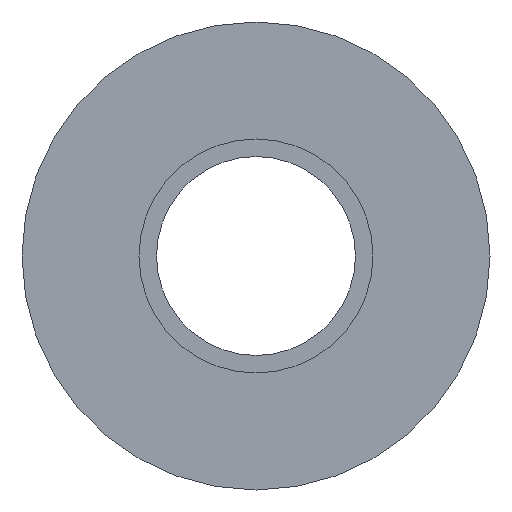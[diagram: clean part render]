
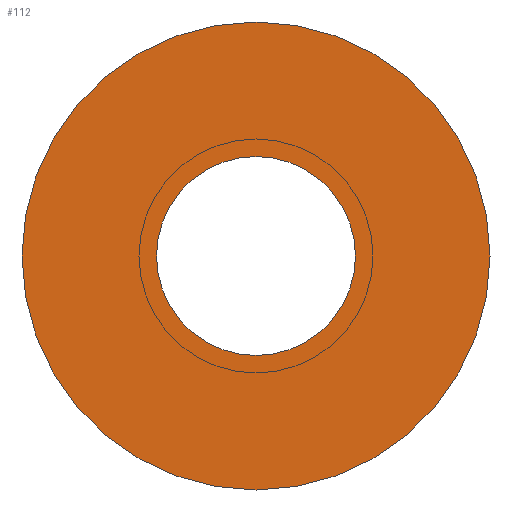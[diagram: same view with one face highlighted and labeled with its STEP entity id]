
A CAD part, front view. The second image highlights one B-rep face of the part: STEP entity #112.
In plain terms, the highlighted planar face has unit normal (0, -1, 0).
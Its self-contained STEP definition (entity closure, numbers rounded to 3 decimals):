
#1=CARTESIAN_POINT('',(0.,-21.5,0.));
#2=DIRECTION('',(0.,1.,0.));
#3=DIRECTION('',(1.,0.,0.));
#4=AXIS2_PLACEMENT_3D('',#1,#2,#3);
#6=CARTESIAN_POINT('',(0.,-21.5,0.));
#7=DIRECTION('',(0.,1.,0.));
#8=DIRECTION('',(-1.,0.,0.));
#9=AXIS2_PLACEMENT_3D('',#6,#7,#8);
#11=CARTESIAN_POINT('',(0.,-21.5,0.));
#12=DIRECTION('',(0.,1.,0.));
#13=DIRECTION('',(1.,0.,0.));
#14=AXIS2_PLACEMENT_3D('',#11,#12,#13);
#16=CARTESIAN_POINT('',(0.,-21.5,0.));
#17=DIRECTION('',(0.,1.,0.));
#18=DIRECTION('',(-1.,0.,0.));
#19=AXIS2_PLACEMENT_3D('',#16,#17,#18);
#75=CARTESIAN_POINT('',(8.,-21.5,0.));
#76=CARTESIAN_POINT('',(-8.,-21.5,0.));
#77=VERTEX_POINT('',#75);
#78=VERTEX_POINT('',#76);
#87=CARTESIAN_POINT('',(3.4,-21.5,0.));
#88=CARTESIAN_POINT('',(-3.4,-21.5,0.));
#89=VERTEX_POINT('',#87);
#90=VERTEX_POINT('',#88);
#95=CARTESIAN_POINT('',(0.,-21.5,0.));
#96=DIRECTION('',(0.,1.,0.));
#97=DIRECTION('',(1.,0.,0.));
#98=AXIS2_PLACEMENT_3D('',#95,#96,#97);
#99=PLANE('',#98);
#101=ORIENTED_EDGE('',*,*,#100,.T.);
#103=ORIENTED_EDGE('',*,*,#102,.T.);
#104=EDGE_LOOP('',(#101,#103));
#105=FACE_OUTER_BOUND('',#104,.F.);
#107=ORIENTED_EDGE('',*,*,#106,.F.);
#109=ORIENTED_EDGE('',*,*,#108,.F.);
#110=EDGE_LOOP('',(#107,#109));
#111=FACE_BOUND('',#110,.F.);
#112=ADVANCED_FACE('',(#105,#111),#99,.F.);
#5=CIRCLE('',#4,8.);
#10=CIRCLE('',#9,8.);
#15=CIRCLE('',#14,3.4);
#20=CIRCLE('',#19,3.4);
#100=EDGE_CURVE('',#77,#78,#5,.T.);
#102=EDGE_CURVE('',#78,#77,#10,.T.);
#106=EDGE_CURVE('',#89,#90,#15,.T.);
#108=EDGE_CURVE('',#90,#89,#20,.T.);
